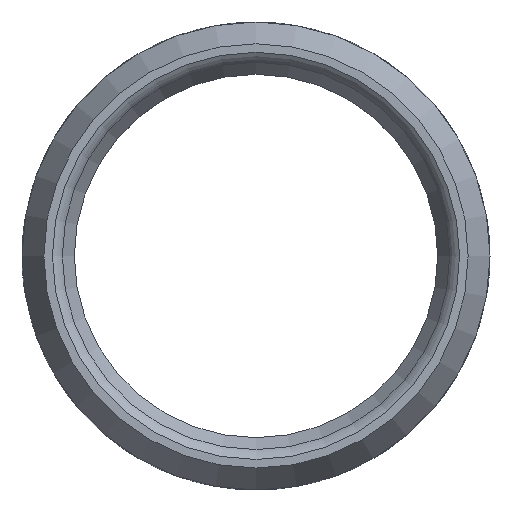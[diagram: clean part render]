
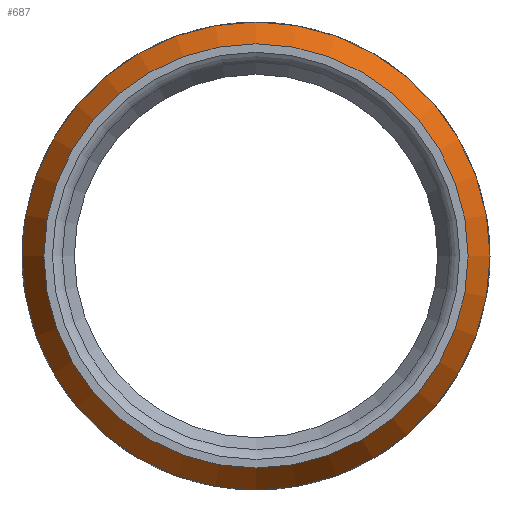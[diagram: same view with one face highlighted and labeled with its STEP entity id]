
A CAD part, top view. The second image highlights one B-rep face of the part: STEP entity #687.
In plain terms, the highlighted conical face has half-angle 30 degrees and reference radius 40.803 mm.
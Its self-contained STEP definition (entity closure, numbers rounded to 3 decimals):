
#60=LINE('',#1033,#124);
#124=VECTOR('',#832,40.804);
#188=CONICAL_SURFACE('',#745,40.804,0.524);
#196=FACE_OUTER_BOUND('',#234,.T.);
#234=EDGE_LOOP('',(#486,#487,#488,#489,#490));
#275=CIRCLE('',#744,38.53);
#276=CIRCLE('',#746,42.5);
#277=CIRCLE('',#747,42.5);
#303=VERTEX_POINT('',#1027);
#304=VERTEX_POINT('',#1030);
#305=VERTEX_POINT('',#1031);
#375=EDGE_CURVE('',#303,#303,#275,.F.);
#376=EDGE_CURVE('',#304,#305,#276,.T.);
#377=EDGE_CURVE('',#305,#303,#60,.T.);
#378=EDGE_CURVE('',#305,#304,#277,.T.);
#486=ORIENTED_EDGE('',*,*,#376,.T.);
#487=ORIENTED_EDGE('',*,*,#377,.T.);
#488=ORIENTED_EDGE('',*,*,#375,.T.);
#489=ORIENTED_EDGE('',*,*,#377,.F.);
#490=ORIENTED_EDGE('',*,*,#378,.T.);
#687=ADVANCED_FACE('',(#196),#188,.T.);
#744=AXIS2_PLACEMENT_3D('',#1028,#826,#827);
#745=AXIS2_PLACEMENT_3D('',#1029,#828,#829);
#746=AXIS2_PLACEMENT_3D('',#1032,#830,#831);
#747=AXIS2_PLACEMENT_3D('',#1034,#833,#834);
#826=DIRECTION('center_axis',(0.,0.,1.));
#827=DIRECTION('ref_axis',(0.,1.,0.));
#828=DIRECTION('center_axis',(0.,0.,-1.));
#829=DIRECTION('ref_axis',(0.,1.,0.));
#830=DIRECTION('center_axis',(0.,0.,1.));
#831=DIRECTION('ref_axis',(1.,0.,0.));
#832=DIRECTION('',(0.,0.5,0.866));
#833=DIRECTION('center_axis',(0.,0.,1.));
#834=DIRECTION('ref_axis',(1.,0.,0.));
#1027=CARTESIAN_POINT('',(7.613,-0.593,215.023));
#1028=CARTESIAN_POINT('Origin',(7.613,37.937,215.023));
#1029=CARTESIAN_POINT('Origin',(7.613,37.937,211.085));
#1030=CARTESIAN_POINT('',(-34.887,37.937,208.147));
#1031=CARTESIAN_POINT('',(7.613,-4.563,208.147));
#1032=CARTESIAN_POINT('Origin',(7.613,37.937,208.147));
#1033=CARTESIAN_POINT('',(7.613,-2.867,211.085));
#1034=CARTESIAN_POINT('Origin',(7.613,37.937,208.147));
